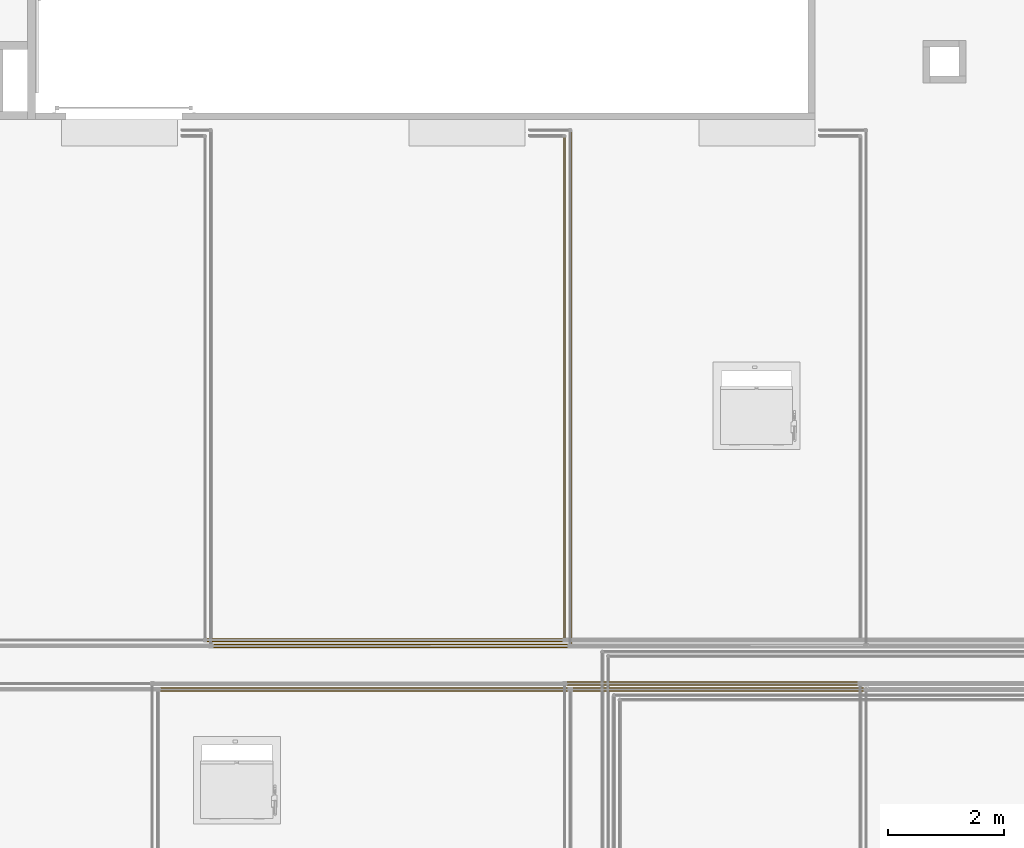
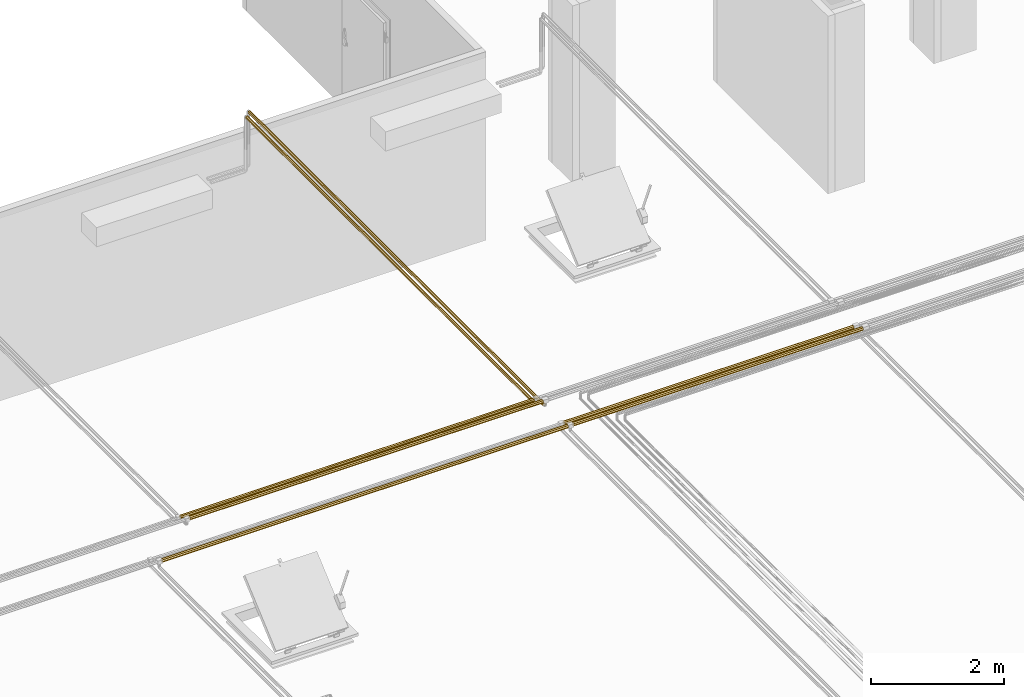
# One storey, part 100 of 652: 7 coverings.
"""IFC2X3 building model written with IfcOpenShell, lengths in millimetres."""

from ifc_helpers import new_model, entity, si_unit, converted_unit, direction, frame, origin, place, context, subcontext, project, spatial, faceted_brep, material, type_object, element, save


model = new_model("IFC2X3")

# Units and contexts
model_context = context("Model", 3, precision=0.01, world=frame((0.0, 0.0, 308426.39999999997)), true_north=direction((6.123233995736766e-17, 1.0)))
plan_context = context("Plan", 3, precision=0.01, world=frame((0.0, 0.0, 308426.39999999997)), true_north=direction((6.123233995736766e-17, 1.0)))
body_context = subcontext(model_context, "Body", "Model", "MODEL_VIEW")
ifc_project = project(units=[si_unit("LENGTHUNIT", "METRE", prefix="MILLI"), si_unit("AREAUNIT", "SQUARE_METRE"), si_unit("VOLUMEUNIT", "CUBIC_METRE"), converted_unit("PLANEANGLEUNIT", "DEGREE", entity("IfcPlaneAngleMeasure", 0.017453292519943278), si_unit("PLANEANGLEUNIT", "RADIAN"), dimensions=[0, 0, 0, 0, 0, 0, 0])], contexts=[model_context, plan_context])

# Site, building, storey
site_placement = place(None, origin())
site = spatial("IfcSite", under=ifc_project, at=site_placement, Name="Default", CompositionType="ELEMENT")
building_placement = place(site_placement, origin())
building = spatial("IfcBuilding", under=site, at=building_placement, CompositionType="ELEMENT")
storey_placement = place(building_placement, frame((0.0, 0.0, 1730.6999999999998)))
storey = spatial("IfcBuildingStorey", under=building, at=storey_placement, Name="EG_Produktion_FFB", CompositionType="ELEMENT", Elevation=1730.6999999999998)

# Coverings
ifc_material = material(Name="Dämmung - Armaflex-Schlauch")
covering_type = type_object("IfcCoveringType", Name="Rohrdämmung außen:Armaflex-Schlauch", PredefinedType="INSULATION")
covering_1_placement = place(storey_placement, frame((41145.74774999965, 41490.115677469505, 3765.1172277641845)))
element("IfcCovering", 1, at=covering_1_placement, inside=storey, type_object=covering_type, material=ifc_material, Name="Rohrdämmung außen:Armaflex-Schlauch", ObjectType="Rohrdämmung außen:Armaflex-Schlauch", PredefinedType="INSULATION", context=body_context, shape_type="Brep", body=[
    faceted_brep([(6108.5044999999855, 68.17027223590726, 34.88277223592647), (6108.5044999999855, 65.88377263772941, 40.40287057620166), (6108.5044999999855, 63.295430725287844, 46.65168072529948), (6108.5044999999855, 60.8580099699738, 52.53613496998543), (6108.5044999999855, 58.420589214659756, 58.42058921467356), (6108.5044999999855, 52.53613496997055, 60.85800996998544), (6108.5044999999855, 46.65168072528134, 63.29543072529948), (6108.5044999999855, 40.76722648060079, 65.73285148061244), (6108.5044999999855, 34.88277223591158, 68.17027223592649), (6108.5044999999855, 29.362673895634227, 65.8837726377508), (6108.5044999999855, 23.113863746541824, 63.29543072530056), (6108.5044999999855, 17.229409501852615, 60.85800996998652), (6108.5044999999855, 11.344955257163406, 58.42058921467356), (6108.5044999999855, 8.907534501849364, 52.53613496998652), (6108.5044999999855, 6.470113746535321, 46.65168072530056), (6108.5044999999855, 4.0326929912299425, 40.767226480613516), (6108.5044999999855, 1.5952722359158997, 34.88277223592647), (6108.5044999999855, 4.0326929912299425, 28.99831799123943), (6108.5044999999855, 6.470113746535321, 23.113863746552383), (6108.5044999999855, 8.907534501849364, 17.22940950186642), (6108.5044999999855, 11.344955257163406, 11.344955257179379), (6108.5044999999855, 17.229409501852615, 8.907534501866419), (6108.5044999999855, 23.113863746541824, 6.470113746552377), (6108.5044999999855, 28.998317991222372, 4.0326929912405), (6108.5044999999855, 34.88277223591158, 1.5952722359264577), (6108.5044999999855, 40.40287057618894, 3.8817718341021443), (6108.5044999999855, 46.65168072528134, 6.470113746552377), (6108.5044999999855, 52.53613496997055, 8.907534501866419), (6108.5044999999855, 58.420589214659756, 11.344955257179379), (6108.5044999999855, 60.8580099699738, 17.22940950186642), (6108.5044999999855, 63.295430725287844, 23.113863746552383), (6108.5044999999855, 65.73285148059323, 28.99831799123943), (0.0, 52.53613496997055, 8.907534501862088), (0.0, 46.65168072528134, 6.4701137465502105), (0.0, 40.76722648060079, 4.032692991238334), (0.0, 34.88277223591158, 1.595272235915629), (0.0, 29.362673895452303, 3.881771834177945), (0.0, 23.84257555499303, 6.168271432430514), (0.0, 17.59376540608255, 8.756613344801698), (0.0, 11.344955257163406, 11.34495525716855), (0.0, 8.907534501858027, 17.229409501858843), (0.0, 6.470113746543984, 23.1138637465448), (0.0, 4.032692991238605, 28.998317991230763), (0.0, 1.5952722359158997, 34.88277223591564), (0.0, 3.881771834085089, 40.402870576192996), (0.0, 6.168271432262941, 45.92296891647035), (0.0, 8.756613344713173, 52.17177906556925), (0.0, 11.344955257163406, 58.42058921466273), (0.0, 17.229409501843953, 60.85800996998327), (0.0, 23.113863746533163, 63.295430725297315), (0.0, 28.998317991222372, 65.73285148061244), (0.0, 34.88277223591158, 68.17027223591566), (0.0, 40.40287057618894, 65.88377263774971), (0.0, 45.92296891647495, 63.59727303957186), (0.0, 52.17177906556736, 61.00893112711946), (0.0, 58.420589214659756, 58.42058921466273), (0.0, 60.8580099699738, 52.53613496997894), (0.0, 63.295430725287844, 46.6516807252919), (0.0, 65.73285148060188, 40.76722648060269), (0.0, 68.17027223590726, 34.88277223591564), (0.0, 65.88377263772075, 29.36267389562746), (0.0, 63.5972730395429, 23.842575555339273), (0.0, 61.00893112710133, 17.593765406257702), (0.0, 58.420589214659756, 11.34495525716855)], [[[0, 1, 2, 3, 4, 5, 6, 7, 8, 9, 10, 11, 12, 13, 14, 15, 16, 17, 18, 19, 20, 21, 22, 23, 24, 25, 26, 27, 28, 29, 30, 31]], [[32, 33, 34, 35, 36, 37, 38, 39, 40, 41, 42, 43, 44, 45, 46, 47, 48, 49, 50, 51, 52, 53, 54, 55, 56, 57, 58, 59, 60, 61, 62, 63]], [[41, 40, 39, 20, 19, 18, 17, 16, 43, 42]], [[37, 36, 35, 24, 23, 22, 21, 20, 39, 38]], [[25, 24, 35, 34, 33, 32, 63, 28, 27, 26]], [[28, 63, 62, 61, 60, 59, 0, 31, 30, 29]], [[1, 0, 59, 58, 57, 56, 55, 4, 3, 2]], [[4, 55, 54, 53, 52, 51, 8, 7, 6, 5]], [[9, 8, 51, 50, 49, 48, 47, 12, 11, 10]], [[12, 47, 46, 45, 44, 43, 16, 15, 14, 13]]]),
])
covering_2_placement = place(storey_placement, frame((47345.74774999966, 40740.11722776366, 3765.1172277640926)))
element("IfcCovering", 2, at=covering_2_placement, inside=storey, type_object=covering_type, material=ifc_material, Name="Rohrdämmung außen:Armaflex-Schlauch", ObjectType="Rohrdämmung außen:Armaflex-Schlauch", PredefinedType="INSULATION", context=body_context, shape_type="Brep", body=[
    faceted_brep([(5008.504500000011, 68.17027223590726, 34.882772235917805), (5008.504500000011, 65.38159687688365, 41.61523010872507), (5008.504500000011, 63.295430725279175, 46.65168072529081), (5008.504500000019, 60.8580099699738, 52.53613496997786), (5008.504500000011, 58.420589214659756, 58.4205892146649), (5008.504500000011, 52.53613496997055, 60.85800996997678), (5008.504500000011, 46.65168072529, 63.29543072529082), (5008.504500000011, 40.76722648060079, 65.73285148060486), (5008.504500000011, 34.88277223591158, 68.17027223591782), (5008.504500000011, 28.150314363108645, 65.38159687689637), (5008.504500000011, 23.113863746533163, 63.29543072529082), (5008.504500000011, 17.229409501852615, 60.85800996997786), (5008.504500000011, 11.344955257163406, 58.4205892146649), (5008.504500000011, 8.907534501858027, 52.53613496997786), (5008.504500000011, 6.470113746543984, 46.65168072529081), (5008.504500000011, 4.0326929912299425, 40.76722648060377), (5008.504500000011, 1.5952722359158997, 34.882772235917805), (5008.504500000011, 4.0326929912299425, 28.998317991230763), (5008.504500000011, 6.470113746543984, 23.1138637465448), (5008.504500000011, 8.907534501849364, 17.22940950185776), (5008.504500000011, 11.344955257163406, 11.344955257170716), (5008.504500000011, 17.229409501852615, 8.907534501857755), (5008.504500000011, 23.113863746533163, 6.470113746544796), (5008.504500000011, 28.998317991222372, 4.032692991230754), (5008.504500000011, 34.88277223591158, 1.5952722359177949), (5008.504500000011, 41.61523010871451, 4.383947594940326), (5008.504500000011, 46.65168072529, 6.470113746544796), (5008.504500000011, 52.53613496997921, 8.907534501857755), (5008.504500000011, 58.420589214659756, 11.344955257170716), (5008.504500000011, 60.85800996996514, 17.22940950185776), (5008.504500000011, 63.295430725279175, 23.11386374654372), (5008.504500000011, 65.73285148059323, 28.998317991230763), (0.0, 52.53613496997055, 8.907534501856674), (0.0, 46.65168072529, 6.4701137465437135), (0.0, 40.76722648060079, 4.032692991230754), (0.0, 34.88277223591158, 1.595272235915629), (0.0, 28.150314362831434, 4.38394759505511), (0.0, 21.417856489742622, 7.172622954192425), (0.0, 11.344955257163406, 11.34495525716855), (0.0, 8.907534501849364, 17.229409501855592), (0.0, 6.470113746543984, 23.113863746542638), (0.0, 4.0326929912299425, 28.99831799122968), (0.0, 1.5952722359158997, 34.88277223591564), (0.0, 4.383947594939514, 41.61523010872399), (0.0, 7.172622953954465, 48.34768798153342), (0.0, 11.344955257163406, 58.42058921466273), (0.0, 17.229409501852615, 60.85800996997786), (0.0, 23.113863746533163, 63.29543072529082), (0.0, 28.998317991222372, 65.73285148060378), (0.0, 34.88277223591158, 68.17027223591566), (0.0, 41.615230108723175, 65.38159687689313), (0.0, 48.347687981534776, 62.592921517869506), (0.0, 58.420589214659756, 58.42058921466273), (0.0, 60.8580099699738, 52.53613496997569), (0.0, 63.295430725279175, 46.65168072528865), (0.0, 65.73285148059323, 40.7672264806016), (0.0, 68.17027223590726, 34.88277223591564), (0.0, 65.38159687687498, 28.150314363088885), (0.0, 62.59292151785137, 21.41785649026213), (0.0, 58.420589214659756, 11.34495525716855)], [[[0, 1, 2, 3, 4, 5, 6, 7, 8, 9, 10, 11, 12, 13, 14, 15, 16, 17, 18, 19, 20, 21, 22, 23, 24, 25, 26, 27, 28, 29, 30, 31]], [[32, 33, 34, 35, 36, 37, 38, 39, 40, 41, 42, 43, 44, 45, 46, 47, 48, 49, 50, 51, 52, 53, 54, 55, 56, 57, 58, 59]], [[40, 39, 38, 20, 19, 18, 17, 16, 42, 41]], [[38, 37, 36, 35, 24, 23, 22, 21, 20]], [[56, 0, 31, 30, 29, 28, 59, 58, 57]], [[27, 26, 25, 24, 35, 34, 33, 32, 59, 28]], [[49, 8, 7, 6, 5, 4, 52, 51, 50]], [[3, 2, 1, 0, 56, 55, 54, 53, 52, 4]], [[42, 16, 15, 14, 13, 12, 45, 44, 43]], [[11, 10, 9, 8, 49, 48, 47, 46, 45, 12]]]),
])
covering_3_placement = place(storey_placement, frame((40232.30781417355, 40740.11722776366, 3765.117227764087)))
element("IfcCovering", 3, at=covering_3_placement, inside=storey, type_object=covering_type, material=ifc_material, Name="Rohrdämmung außen:Armaflex-Schlauch", ObjectType="Rohrdämmung außen:Armaflex-Schlauch", PredefinedType="INSULATION", context=body_context, shape_type="Brep", body=[
    faceted_brep([(7021.944435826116, 68.17027223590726, 34.88277223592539), (7021.944435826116, 66.18120877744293, 39.68479621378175), (7021.944435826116, 63.295430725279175, 46.65168072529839), (7021.944435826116, 60.8580099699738, 52.53613496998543), (7021.944435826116, 58.420589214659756, 58.42058921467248), (7021.944435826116, 52.53613496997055, 60.85800996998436), (7021.944435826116, 46.65168072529, 63.295430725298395), (7021.944435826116, 40.76722648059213, 65.73285148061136), (7021.944435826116, 34.88277223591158, 68.1702722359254), (7021.944435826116, 30.080748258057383, 66.18120877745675), (7021.944435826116, 23.113863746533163, 63.295430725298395), (7021.944435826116, 17.229409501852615, 60.85800996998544), (7021.944435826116, 11.344955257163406, 58.42058921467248), (7021.944435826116, 8.907534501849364, 52.53613496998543), (7021.944435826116, 6.470113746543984, 46.65168072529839), (7021.944435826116, 4.0326929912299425, 40.76722648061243), (7021.944435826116, 1.5952722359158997, 34.88277223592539), (7021.944435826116, 4.0326929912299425, 28.99831799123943), (7021.944435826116, 6.470113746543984, 23.113863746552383), (7021.944435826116, 8.907534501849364, 17.22940950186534), (7021.944435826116, 11.344955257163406, 11.344955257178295), (7021.944435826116, 17.229409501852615, 8.907534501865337), (7021.944435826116, 23.113863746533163, 6.470113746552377), (7021.944435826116, 28.998317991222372, 4.032692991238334), (7021.944435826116, 34.88277223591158, 1.5952722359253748), (7021.944435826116, 39.68479621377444, 3.584335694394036), (7021.944435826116, 46.65168072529, 6.470113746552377), (7021.944435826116, 52.53613496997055, 8.907534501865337), (7021.944435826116, 58.420589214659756, 11.344955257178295), (7021.944435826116, 60.8580099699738, 17.22940950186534), (7021.944435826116, 63.295430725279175, 23.113863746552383), (7021.944435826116, 65.73285148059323, 28.998317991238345), (0.0, 52.53613496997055, 8.907534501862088), (0.0, 46.65168072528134, 6.4701137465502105), (0.0, 40.76722648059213, 4.032692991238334), (0.0, 34.88277223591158, 1.595272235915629), (0.0, 25.27872427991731, 5.573399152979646), (0.0, 18.31183976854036, 8.459177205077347), (0.0, 11.344955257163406, 11.34495525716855), (0.0, 8.907534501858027, 17.229409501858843), (0.0, 6.470113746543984, 23.1138637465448), (0.0, 4.0326929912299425, 28.99831799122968), (0.0, 1.5952722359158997, 34.88277223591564), (0.0, 5.573399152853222, 44.486820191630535), (0.0, 8.459177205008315, 51.45370470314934), (0.0, 11.344955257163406, 58.42058921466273), (0.0, 17.229409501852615, 60.85800996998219), (0.0, 23.113863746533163, 63.295430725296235), (0.0, 28.998317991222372, 65.73285148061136), (0.0, 34.88277223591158, 68.17027223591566), (0.0, 44.48682019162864, 64.19214531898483), (0.0, 51.4537047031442, 61.306367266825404), (0.0, 58.420589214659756, 58.42058921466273), (0.0, 60.85800996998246, 52.53613496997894), (0.0, 63.295430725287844, 46.6516807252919), (0.0, 65.73285148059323, 40.76722648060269), (0.0, 68.17027223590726, 34.88277223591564), (0.0, 64.19214531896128, 25.278724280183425), (0.0, 61.306367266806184, 18.311839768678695), (0.0, 58.420589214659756, 11.34495525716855)], [[[0, 1, 2, 3, 4, 5, 6, 7, 8, 9, 10, 11, 12, 13, 14, 15, 16, 17, 18, 19, 20, 21, 22, 23, 24, 25, 26, 27, 28, 29, 30, 31]], [[32, 33, 34, 35, 36, 37, 38, 39, 40, 41, 42, 43, 44, 45, 46, 47, 48, 49, 50, 51, 52, 53, 54, 55, 56, 57, 58, 59]], [[40, 39, 38, 20, 19, 18, 17, 16, 42, 41]], [[36, 35, 24, 23, 22, 21, 20, 38, 37]], [[33, 32, 59, 28, 27, 26, 25, 24, 35, 34]], [[28, 59, 58, 57, 56, 0, 31, 30, 29]], [[54, 53, 52, 4, 3, 2, 1, 0, 56, 55]], [[4, 52, 51, 50, 49, 8, 7, 6, 5]], [[47, 46, 45, 12, 11, 10, 9, 8, 49, 48]], [[12, 45, 44, 43, 42, 16, 15, 14, 13]]]),
])
covering_4_placement = place(storey_placement, frame((41037.04824999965, 41593.29067746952, 3768.2922277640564)))
element("IfcCovering", 4, at=covering_4_placement, inside=storey, type_object=covering_type, material=ifc_material, Name="Rohrdämmung außen:Armaflex-Schlauch", ObjectType="Rohrdämmung außen:Armaflex-Schlauch", PredefinedType="INSULATION", context=body_context, shape_type="Brep", body=[
    faceted_brep([(6125.903499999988, 61.82027223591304, 31.707772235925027), (6125.903499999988, 59.85856440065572, 36.44375389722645), (6125.903499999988, 57.410398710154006, 42.35414871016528), (6125.903499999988, 55.20546194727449, 47.677336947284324), (6125.903499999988, 53.000525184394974, 53.00052518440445), (6125.903499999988, 47.67733694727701, 55.20546194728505), (6125.903499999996, 42.35414871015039, 57.410398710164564), (6125.903499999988, 37.03096047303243, 59.61533547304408), (6125.903499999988, 31.70777223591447, 61.820272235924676), (6125.903499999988, 26.971790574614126, 59.858564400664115), (6125.903499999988, 21.061395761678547, 57.410398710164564), (6125.903499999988, 15.738207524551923, 55.205461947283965), (6125.903499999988, 10.415019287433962, 53.00052518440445), (6125.903499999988, 8.210082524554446, 47.677336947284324), (6125.903499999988, 6.005145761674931, 42.35414871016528), (6125.903499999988, 3.8002089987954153, 37.030960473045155), (6125.903499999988, 1.5952722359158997, 31.707772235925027), (6125.903499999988, 3.8002089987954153, 26.3845839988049), (6125.903499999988, 6.005145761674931, 21.06139576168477), (6125.903499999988, 8.210082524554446, 15.738207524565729), (6125.903499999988, 10.415019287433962, 10.415019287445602), (6125.903499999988, 15.738207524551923, 8.210082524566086), (6125.903499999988, 21.061395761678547, 6.005145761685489), (6125.903499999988, 26.384583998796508, 3.8002089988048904), (6125.903499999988, 31.70777223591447, 1.5952722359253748), (6125.903499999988, 36.44375389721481, 3.556980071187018), (6125.903499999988, 42.35414871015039, 6.005145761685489), (6125.903499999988, 47.67733694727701, 8.210082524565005), (6125.903499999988, 53.000525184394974, 10.415019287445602), (6125.903499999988, 55.20546194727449, 15.738207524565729), (6125.903499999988, 57.410398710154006, 21.06139576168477), (6125.903499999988, 59.615335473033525, 26.3845839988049), (0.0, 47.67733694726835, 8.210082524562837), (0.0, 42.35414871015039, 6.005145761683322), (0.0, 37.03096047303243, 3.8002089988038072), (0.0, 31.70777223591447, 1.595272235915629), (0.0, 26.971790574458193, 3.5569800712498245), (0.0, 22.235808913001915, 5.518687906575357), (0.0, 16.325414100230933, 7.9668535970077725), (0.0, 10.415019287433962, 10.415019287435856), (0.0, 8.21008252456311, 15.738207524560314), (0.0, 6.005145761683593, 21.061395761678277), (0.0, 3.8002089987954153, 26.384583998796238), (0.0, 1.5952722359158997, 31.707772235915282), (0.0, 3.5569800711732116, 36.44375389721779), (0.0, 5.518687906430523, 41.17973555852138), (0.0, 7.966853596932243, 47.09013037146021), (0.0, 10.415019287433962, 53.000525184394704), (0.0, 15.738207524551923, 55.20546194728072), (0.0, 21.061395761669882, 57.4103987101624), (0.0, 26.384583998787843, 59.61533547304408), (0.0, 31.70777223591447, 61.820272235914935), (0.0, 36.44375389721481, 59.858564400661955), (0.0, 41.17973555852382, 57.896856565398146), (0.0, 47.090130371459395, 55.44869087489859), (0.0, 53.000525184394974, 53.000525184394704), (0.0, 55.205461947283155, 47.67733694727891), (0.0, 57.41039871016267, 42.3541487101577), (0.0, 59.615335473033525, 37.03096047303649), (0.0, 61.82027223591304, 31.707772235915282), (0.0, 59.85856440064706, 26.971790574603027), (0.0, 57.896856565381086, 22.235808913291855), (0.0, 55.44869087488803, 16.325414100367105), (0.0, 53.000525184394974, 10.415019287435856)], [[[0, 1, 2, 3, 4, 5, 6, 7, 8, 9, 10, 11, 12, 13, 14, 15, 16, 17, 18, 19, 20, 21, 22, 23, 24, 25, 26, 27, 28, 29, 30, 31]], [[32, 33, 34, 35, 36, 37, 38, 39, 40, 41, 42, 43, 44, 45, 46, 47, 48, 49, 50, 51, 52, 53, 54, 55, 56, 57, 58, 59, 60, 61, 62, 63]], [[41, 40, 39, 20, 19, 18, 17, 16, 43, 42]], [[37, 36, 35, 24, 23, 22, 21, 20, 39, 38]], [[33, 32, 63, 28, 27, 26, 25, 24, 35, 34]], [[28, 63, 62, 61, 60, 59, 0, 31, 30, 29]], [[57, 56, 55, 4, 3, 2, 1, 0, 59, 58]], [[4, 55, 54, 53, 52, 51, 8, 7, 6, 5]], [[49, 48, 47, 12, 11, 10, 9, 8, 51, 50]], [[12, 47, 46, 45, 44, 43, 16, 15, 14, 13]]]),
])
covering_5_placement = place(storey_placement, frame((47245.74774999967, 40840.11722776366, 3765.1172277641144)))
element("IfcCovering", 5, at=covering_5_placement, inside=storey, type_object=covering_type, material=ifc_material, Name="Rohrdämmung außen:Armaflex-Schlauch", ObjectType="Rohrdämmung außen:Armaflex-Schlauch", PredefinedType="INSULATION", context=body_context, shape_type="Brep", body=[
    faceted_brep([(5008.504500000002, 68.17027223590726, 34.882772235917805), (5008.504500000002, 65.38159687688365, 41.61523010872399), (5008.504500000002, 63.295430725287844, 46.65168072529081), (5008.504500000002, 60.8580099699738, 52.53613496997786), (5008.504500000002, 58.420589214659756, 58.4205892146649), (5008.504499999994, 52.53613496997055, 60.85800996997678), (5008.504500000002, 46.65168072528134, 63.29543072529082), (5008.504500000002, 40.76722648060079, 65.73285148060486), (5008.504500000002, 34.88277223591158, 68.17027223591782), (5008.504500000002, 28.150314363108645, 65.38159687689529), (5008.504500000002, 23.113863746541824, 63.29543072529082), (5008.504500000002, 17.229409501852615, 60.85800996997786), (5008.504500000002, 11.344955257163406, 58.4205892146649), (5008.504500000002, 8.907534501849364, 52.53613496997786), (5008.504500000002, 6.470113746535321, 46.65168072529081), (5008.504499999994, 4.0326929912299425, 40.76722648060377), (5008.504500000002, 1.5952722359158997, 34.882772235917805), (5008.504500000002, 4.032692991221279, 28.998317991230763), (5008.504500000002, 6.470113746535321, 23.1138637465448), (5008.504500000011, 8.907534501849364, 17.22940950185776), (5008.504500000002, 11.344955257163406, 11.344955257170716), (5008.504500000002, 17.229409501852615, 8.907534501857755), (5008.504500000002, 23.113863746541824, 6.470113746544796), (5008.504500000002, 28.998317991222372, 4.032692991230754), (5008.504500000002, 34.88277223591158, 1.5952722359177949), (5008.504500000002, 41.615230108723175, 4.383947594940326), (5008.504500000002, 46.65168072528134, 6.470113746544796), (5008.504500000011, 52.53613496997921, 8.907534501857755), (5008.504500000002, 58.420589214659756, 11.344955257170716), (5008.504500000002, 60.8580099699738, 17.22940950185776), (5008.504500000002, 63.295430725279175, 23.11386374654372), (5008.504499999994, 65.73285148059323, 28.998317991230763), (0.0, 52.53613496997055, 8.907534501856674), (0.0, 46.65168072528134, 6.4701137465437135), (0.0, 40.76722648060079, 4.032692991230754), (0.0, 34.88277223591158, 1.595272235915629), (0.0, 28.15031436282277, 4.38394759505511), (0.0, 21.417856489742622, 7.172622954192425), (0.0, 11.344955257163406, 11.34495525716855), (0.0, 8.907534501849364, 17.229409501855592), (0.0, 6.470113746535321, 23.113863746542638), (0.0, 4.0326929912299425, 28.99831799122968), (0.0, 1.5952722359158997, 34.88277223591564), (0.0, 4.383947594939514, 41.61523010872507), (0.0, 7.172622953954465, 48.34768798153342), (0.0, 11.344955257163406, 58.42058921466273), (0.0, 17.229409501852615, 60.85800996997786), (0.0, 23.113863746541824, 63.29543072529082), (0.0, 28.998317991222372, 65.73285148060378), (0.0, 34.88277223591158, 68.17027223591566), (0.0, 41.615230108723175, 65.38159687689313), (0.0, 48.347687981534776, 62.592921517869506), (0.0, 58.420589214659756, 58.42058921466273), (0.0, 60.8580099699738, 52.53613496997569), (0.0, 63.295430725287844, 46.65168072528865), (0.0, 65.73285148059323, 40.7672264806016), (0.0, 68.17027223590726, 34.88277223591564), (0.0, 65.38159687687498, 28.150314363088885), (0.0, 62.59292151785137, 21.41785649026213), (0.0, 58.420589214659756, 11.34495525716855)], [[[0, 1, 2, 3, 4, 5, 6, 7, 8, 9, 10, 11, 12, 13, 14, 15, 16, 17, 18, 19, 20, 21, 22, 23, 24, 25, 26, 27, 28, 29, 30, 31]], [[32, 33, 34, 35, 36, 37, 38, 39, 40, 41, 42, 43, 44, 45, 46, 47, 48, 49, 50, 51, 52, 53, 54, 55, 56, 57, 58, 59]], [[40, 39, 38, 20, 19, 18, 17, 16, 42, 41]], [[38, 37, 36, 35, 24, 23, 22, 21, 20]], [[56, 0, 31, 30, 29, 28, 59, 58, 57]], [[27, 26, 25, 24, 35, 34, 33, 32, 59, 28]], [[49, 8, 7, 6, 5, 4, 52, 51, 50]], [[3, 2, 1, 0, 56, 55, 54, 53, 52, 4]], [[42, 16, 15, 14, 13, 12, 45, 44, 43]], [[11, 10, 9, 8, 49, 48, 47, 46, 45, 12]]]),
])
covering_6_placement = place(storey_placement, frame((47271.467227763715, 41556.982199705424, 3671.467227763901)))
element("IfcCovering", 6, at=covering_6_placement, inside=storey, type_object=covering_type, material=ifc_material, Name="Rohrdämmung außen:Armaflex-Schlauch", ObjectType="Rohrdämmung außen:Armaflex-Schlauch", PredefinedType="INSULATION", context=body_context, shape_type="Brep", body=[
    faceted_brep([(9.485083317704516, 0.0, 47.5804611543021), (7.512630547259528, 0.0, 42.81853892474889), (5.54017777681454, 0.0, 38.05661669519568), (3.567725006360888, 0.0, 33.29469446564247), (1.5952722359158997, 0.0, 28.53277223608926), (3.567725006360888, 0.0, 23.77085000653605), (5.54017777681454, 0.0, 19.00892777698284), (7.512630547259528, 0.0, 14.247005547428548), (9.485083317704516, 0.0, 9.485083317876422), (14.247005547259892, 0.0, 7.5126305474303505), (19.008927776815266, 0.0, 5.540177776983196), (23.77085000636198, 0.0, 3.5677250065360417), (28.532772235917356, 0.0, 1.5952722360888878), (34.090716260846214, 0.0, 3.897448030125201), (38.05661669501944, 0.0, 5.540177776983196), (42.81853892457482, 0.0, 7.5126305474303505), (47.5804611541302, 0.0, 9.485083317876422), (49.552913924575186, 0.0, 14.247005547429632), (51.525366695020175, 0.0, 19.00892777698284), (53.168096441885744, 0.0, 22.9748282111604), (55.47027223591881, 0.0, 28.53277223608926), (53.16809644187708, 0.0, 34.09071626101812), (51.525366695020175, 0.0, 38.05661669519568), (49.552913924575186, 0.0, 42.81853892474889), (47.5804611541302, 0.0, 47.5804611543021), (42.81853892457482, 0.0, 49.552913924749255), (38.05661669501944, 0.0, 51.52536669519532), (33.29469446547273, 0.0, 53.497819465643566), (28.532772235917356, 0.0, 55.470272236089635), (22.974828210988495, 0.0, 53.16809644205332), (17.416884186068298, 0.0, 50.86592064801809), (47.58046115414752, 8833.070608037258, 9.485083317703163), (42.81853892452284, 8833.070608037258, 7.512630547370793), (38.05661669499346, 8833.070608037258, 5.540177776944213), (33.29469446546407, 8833.070608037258, 3.5677250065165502), (28.532772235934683, 8833.070608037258, 1.595272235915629), (22.974828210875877, 8833.070608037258, 3.8974480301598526), (17.416884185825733, 8833.070608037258, 6.199623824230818), (9.485083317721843, 8833.070608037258, 9.485083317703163), (7.512630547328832, 8833.070608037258, 14.247005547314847), (5.540177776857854, 8833.070608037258, 19.008927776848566), (3.567725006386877, 8833.070608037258, 23.770850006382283), (1.5952722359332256, 8833.070608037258, 28.532772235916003), (3.8974480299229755, 8833.070608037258, 34.09071626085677), (6.199623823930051, 8833.070608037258, 39.64866028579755), (9.485083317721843, 8833.070608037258, 47.58046115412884), (14.247005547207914, 8833.070608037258, 49.55291392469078), (19.008927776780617, 8833.07060803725, 51.52536669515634), (23.770850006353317, 8833.070608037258, 53.49781946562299), (28.532772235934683, 8833.070608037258, 55.470272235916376), (33.29469446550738, 8833.070608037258, 53.497819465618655), (38.05661669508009, 8833.070608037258, 51.52536669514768), (42.818538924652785, 8833.070608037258, 49.55291392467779), (47.58046115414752, 8833.070608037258, 47.58046115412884), (50.86592064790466, 8833.070608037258, 39.648660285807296), (53.168096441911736, 8833.070608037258, 34.09071626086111), (55.470272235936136, 8833.070608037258, 28.532772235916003), (53.49781946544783, 8833.070608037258, 23.770850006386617), (51.52536669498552, 8833.070608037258, 19.008927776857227), (49.5529139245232, 8833.070608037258, 14.247005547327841)], [[[0, 1, 2, 3, 4, 5, 6, 7, 8, 9, 10, 11, 12, 13, 14, 15, 16, 17, 18, 19, 20, 21, 22, 23, 24, 25, 26, 27, 28, 29, 30]], [[31, 32, 33, 34, 35, 36, 37, 38, 39, 40, 41, 42, 43, 44, 45, 46, 47, 48, 49, 50, 51, 52, 53, 54, 55, 56, 57, 58, 59]], [[40, 39, 38, 8, 7, 6, 5, 4, 42, 41]], [[38, 37, 36, 35, 12, 11, 10, 9, 8]], [[19, 18, 17, 16, 31, 59, 58, 57, 56, 20]], [[15, 14, 13, 12, 35, 34, 33, 32, 31, 16]], [[55, 54, 53, 24, 23, 22, 21, 20, 56]], [[24, 53, 52, 51, 50, 49, 28, 27, 26, 25]], [[0, 30, 29, 28, 49, 48, 47, 46, 45]], [[44, 43, 42, 4, 3, 2, 1, 0, 45]]]),
])
covering_7_placement = place(storey_placement, frame((47171.467227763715, 41656.98219970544, 3671.467227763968)))
element("IfcCovering", 7, at=covering_7_placement, inside=storey, type_object=covering_type, material=ifc_material, Name="Rohrdämmung außen:Armaflex-Schlauch", ObjectType="Rohrdämmung außen:Armaflex-Schlauch", PredefinedType="INSULATION", context=body_context, shape_type="Brep", body=[
    faceted_brep([(9.485083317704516, 0.0, 47.58046115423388), (7.512630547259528, 0.0, 42.818538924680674), (5.540177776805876, 0.0, 38.05661669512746), (3.567725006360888, 0.0, 33.29469446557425), (1.5952722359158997, 0.0, 28.53277223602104), (3.567725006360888, 0.0, 23.770850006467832), (5.540177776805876, 0.0, 19.00892777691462), (7.512630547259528, 0.0, 14.247005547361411), (9.485083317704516, 0.0, 9.4850833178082), (14.247005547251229, 0.0, 7.512630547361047), (19.008927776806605, 0.0, 5.540177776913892), (23.77085000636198, 0.0, 3.5677250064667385), (28.532772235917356, 0.0, 1.5952722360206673), (34.21947563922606, 0.0, 3.950781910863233), (38.056616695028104, 0.0, 5.540177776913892), (42.81853892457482, 0.0, 7.512630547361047), (47.5804611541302, 0.0, 9.4850833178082), (49.552913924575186, 0.0, 14.247005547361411), (51.525366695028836, 0.0, 19.00892777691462), (53.497819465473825, 0.0, 23.770850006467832), (55.47027223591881, 0.0, 28.53277223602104), (53.11476256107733, 0.0, 34.219475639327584), (51.525366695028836, 0.0, 38.05661669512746), (49.552913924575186, 0.0, 42.818538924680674), (47.5804611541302, 0.0, 47.58046115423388), (42.818538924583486, 0.0, 49.552913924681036), (38.056616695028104, 0.0, 51.52536669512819), (33.29469446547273, 0.0, 53.49781946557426), (28.532772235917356, 0.0, 55.470272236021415), (22.846068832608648, 0.0, 53.11476256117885), (17.159365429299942, 0.0, 50.7592528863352), (47.58046115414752, 8633.070608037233, 9.485083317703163), (42.81853892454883, 8633.070608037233, 7.512630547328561), (38.05661669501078, 8633.070608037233, 5.540177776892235), (33.29469446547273, 8633.070608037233, 3.56772500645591), (28.532772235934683, 8633.070608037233, 1.595272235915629), (22.84606883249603, 8633.070608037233, 3.9507819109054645), (17.15936542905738, 8633.070608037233, 6.306291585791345), (9.485083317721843, 8633.070608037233, 9.485083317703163), (7.512630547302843, 8633.070608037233, 14.247005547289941), (5.540177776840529, 8633.070608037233, 19.008927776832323), (3.567725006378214, 8633.070608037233, 23.770850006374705), (1.5952722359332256, 8633.070608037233, 28.532772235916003), (3.950781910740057, 8633.070608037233, 34.219475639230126), (6.306291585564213, 8633.070608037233, 39.906179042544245), (9.485083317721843, 8633.070608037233, 47.58046115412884), (14.247005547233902, 8633.070608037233, 49.55291392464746), (19.008927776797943, 8633.070608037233, 51.52536669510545), (23.77085000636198, 8633.070608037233, 53.49781946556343), (28.532772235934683, 8633.070608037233, 55.470272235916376), (33.29469446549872, 8633.070608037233, 53.4978194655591), (38.05661669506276, 8633.070608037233, 51.525366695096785), (42.81853892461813, 8633.070608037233, 49.552913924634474), (47.58046115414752, 8633.070608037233, 47.58046115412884), (50.759252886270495, 8633.070608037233, 39.906179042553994), (53.11476256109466, 8633.070608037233, 34.21947563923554), (55.470272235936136, 8633.070608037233, 28.532772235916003), (53.11476256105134, 8633.070608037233, 22.846068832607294), (50.759252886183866, 8633.070608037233, 17.159365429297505)], [[[0, 1, 2, 3, 4, 5, 6, 7, 8, 9, 10, 11, 12, 13, 14, 15, 16, 17, 18, 19, 20, 21, 22, 23, 24, 25, 26, 27, 28, 29, 30]], [[31, 32, 33, 34, 35, 36, 37, 38, 39, 40, 41, 42, 43, 44, 45, 46, 47, 48, 49, 50, 51, 52, 53, 54, 55, 56, 57, 58]], [[40, 39, 38, 8, 7, 6, 5, 4, 42, 41]], [[38, 37, 36, 35, 12, 11, 10, 9, 8]], [[56, 20, 19, 18, 17, 16, 31, 58, 57]], [[15, 14, 13, 12, 35, 34, 33, 32, 31, 16]], [[21, 20, 56, 55, 54, 53, 24, 23, 22]], [[24, 53, 52, 51, 50, 49, 28, 27, 26, 25]], [[0, 30, 29, 28, 49, 48, 47, 46, 45]], [[44, 43, 42, 4, 3, 2, 1, 0, 45]]]),
])

save(model, "model.ifc")
